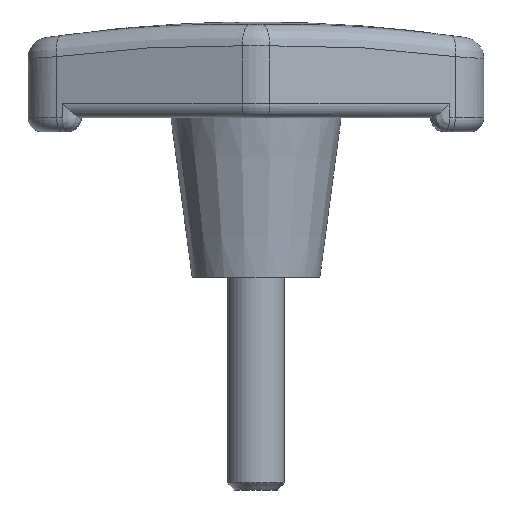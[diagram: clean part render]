
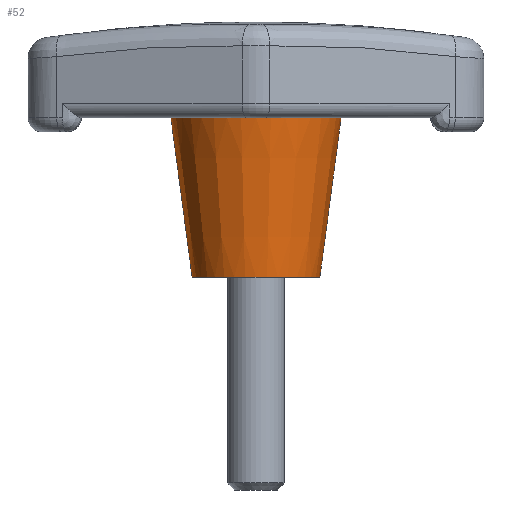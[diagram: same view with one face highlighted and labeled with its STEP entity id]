
A CAD part, front view. The second image highlights one B-rep face of the part: STEP entity #52.
In plain terms, the highlighted conical face has half-angle 7.595 degrees and reference radius 9 mm.
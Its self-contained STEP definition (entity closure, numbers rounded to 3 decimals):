
#20=CARTESIAN_POINT('',(0.,0.,0.));
#21=DIRECTION('',(-1.,0.,0.));
#22=DIRECTION('',(0.,0.,1.));
#23=AXIS2_PLACEMENT_3D('',#20,#22,#21);
#24=CONICAL_SURFACE('',#23,9.,0.133);
#25=CARTESIAN_POINT('',(-9.,0.,0.));
#26=VERTEX_POINT('',#25);
#27=CARTESIAN_POINT('',(-12.,0.,22.5));
#28=VERTEX_POINT('',#27);
#29=CARTESIAN_POINT('',(-9.,0.,0.));
#30=DIRECTION('',(-0.132,0.,0.991));
#31=VECTOR('',#30,22.699);
#32=LINE('',#29,#31);
#33=EDGE_CURVE('',#26,#28,#32,.T.);
#34=ORIENTED_EDGE('E97',*,*,#33,.F.);
#35=CARTESIAN_POINT('',(0.,0.,0.));
#36=DIRECTION('',(-1.,0.,0.));
#37=DIRECTION('',(0.,0.,-1.));
#38=AXIS2_PLACEMENT_3D('',#35,#37,#36);
#39=CIRCLE('',#38,9.);
#40=EDGE_CURVE('',#26,#26,#39,.T.);
#41=ORIENTED_EDGE('E94',*,*,#40,.T.);
#42=ORIENTED_EDGE('E94',*,*,#33,.T.);
#43=CARTESIAN_POINT('',(0.,0.,22.5));
#44=DIRECTION('',(-1.,0.,0.));
#45=DIRECTION('',(0.,0.,-1.));
#46=AXIS2_PLACEMENT_3D('',#43,#45,#44);
#47=CIRCLE('',#46,12.);
#48=EDGE_CURVE('',#28,#28,#47,.T.);
#49=ORIENTED_EDGE('E93',*,*,#48,.F.);
#50=EDGE_LOOP('',(#34,#41,#42,#49));
#51=FACE_OUTER_BOUND('',#50,.F.);
#52=ADVANCED_FACE('F32',(#51),#24,.T.);
